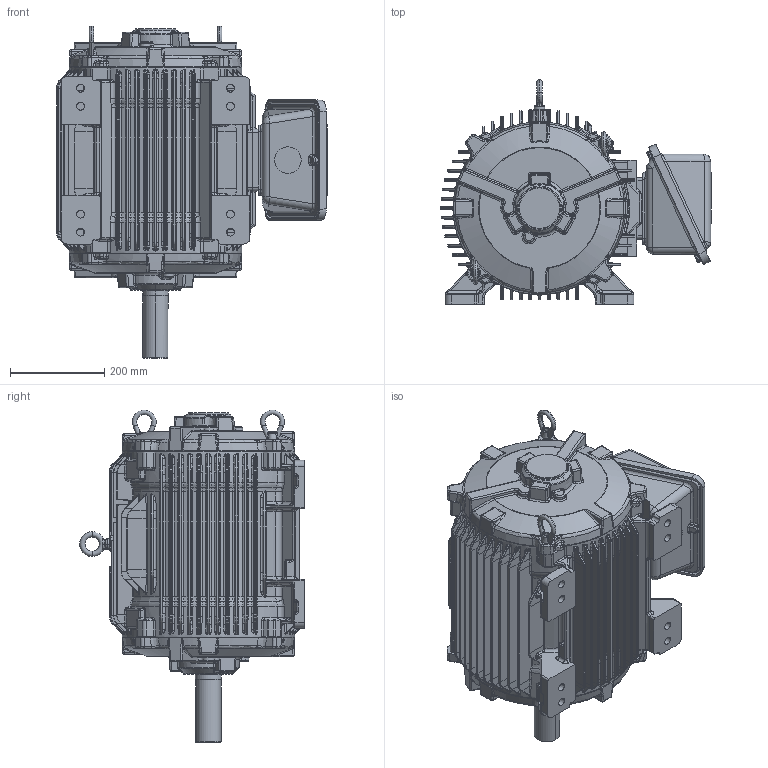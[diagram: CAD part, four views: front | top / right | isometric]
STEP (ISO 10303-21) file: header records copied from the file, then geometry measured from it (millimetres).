
FILE_DESCRIPTION((''),'2;1');
FILE_NAME('320_3D_ASM_ASM','2019-05-21T08:15:22',('EMD2341'),('Nidec Motor Corporation'),'CREO PARAMETRIC BY PTC INC, 2018300','CREO PARAMETRIC BY PTC INC, 2018300','');
FILE_SCHEMA(('CONFIG_CONTROL_DESIGN'));
Length unit declared in the file: inch
Products named in the file (12): 320_FOOTED_FRAME; 320_DE_BRKT; 0133166; 320_CAST_GSK_OBB; 320_OBB_NEMA; 320_CAST_GSK_OBC; 320_CAST_OBC; 320_T; 320_ODE_BRKT; 0046751; 0466663-006; 320_3D_ASM_ASM
Assembly tree (12 placements, depth 2):
  320_3D_ASM_ASM
    320_FOOTED_FRAME
    320_DE_BRKT
    0133166
    320_CAST_GSK_OBB
    320_OBB_NEMA
    320_CAST_GSK_OBC
    320_CAST_OBC
    320_T
    320_ODE_BRKT
    0046751  x2
    0466663-006
Bounding box: 573.7 x 475.62 x 703.23 mm (x, y, z)
Volume: 61051083.5 mm3; surface area: 2736441.6 mm2
Topology: 12 solids, 16 shells, 5023 faces, 11508 edges, 6528 vertices
Faces by surface type: bspline 2218, cylinder 978, plane 882, torus 378, extrusion 376, sphere 106, cone 85
Entity records: 234512 total; most frequent: CARTESIAN_POINT 137784, ORIENTED_EDGE 22876, DIRECTION 15739, EDGE_CURVE 11448, VERTEX_POINT 6492, AXIS2_PLACEMENT_3D 6002, EDGE_LOOP 5047, FACE_OUTER_BOUND 4999
